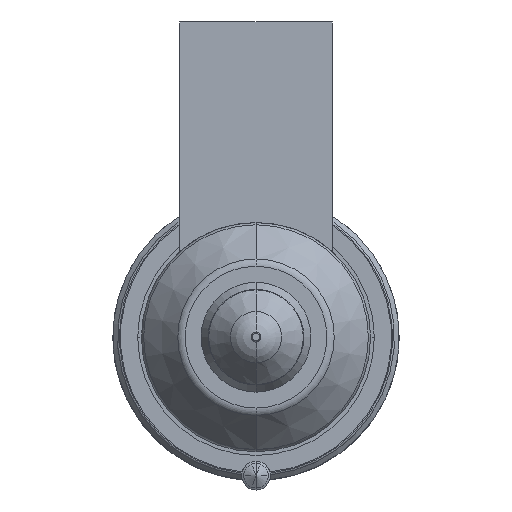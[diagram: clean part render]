
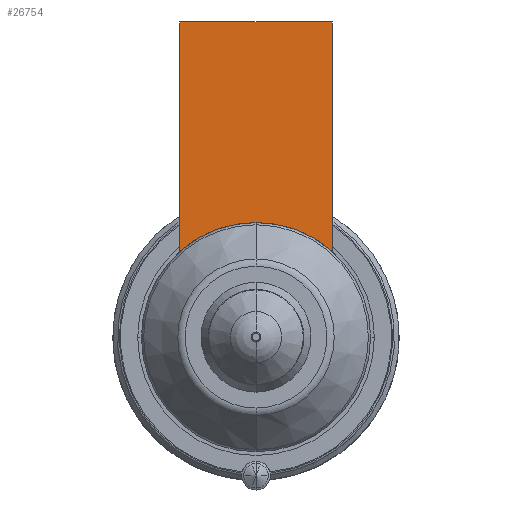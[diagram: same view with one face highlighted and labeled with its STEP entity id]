
A CAD part, front view. The second image highlights one B-rep face of the part: STEP entity #26754.
In plain terms, the highlighted planar face has unit normal (0, -1, 0).
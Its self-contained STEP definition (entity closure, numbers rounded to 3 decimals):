
#25834=DIRECTION('',(0.,0.,-1.));
#25835=VECTOR('',#25834,24.056);
#25836=CARTESIAN_POINT('',(-8.,-56.,33.));
#25837=LINE('',#25836,#25835);
#25874=DIRECTION('',(1.,0.,0.));
#25875=VECTOR('',#25874,16.);
#25876=CARTESIAN_POINT('',(-8.,-56.,33.));
#25877=LINE('',#25876,#25875);
#25881=CARTESIAN_POINT('',(0.,-56.,0.));
#25882=DIRECTION('',(0.,-1.,0.));
#25883=DIRECTION('',(0.667,0.,0.745));
#25884=AXIS2_PLACEMENT_3D('',#25881,#25882,#25883);
#25889=CARTESIAN_POINT('',(0.,-56.,0.));
#25890=DIRECTION('',(0.,-1.,0.));
#25891=DIRECTION('',(0.,0.,1.));
#25892=AXIS2_PLACEMENT_3D('',#25889,#25890,#25891);
#25925=DIRECTION('',(0.,0.,-1.));
#25926=VECTOR('',#25925,24.056);
#25927=CARTESIAN_POINT('',(8.,-56.,33.));
#25928=LINE('',#25927,#25926);
#26590=CARTESIAN_POINT('',(-8.,-56.,33.));
#26591=VERTEX_POINT('',#26590);
#26596=CARTESIAN_POINT('',(8.,-56.,33.));
#26597=VERTEX_POINT('',#26596);
#26600=CARTESIAN_POINT('',(-8.,-56.,8.944));
#26601=VERTEX_POINT('',#26600);
#26604=CARTESIAN_POINT('',(8.,-56.,8.944));
#26605=VERTEX_POINT('',#26604);
#26673=CARTESIAN_POINT('',(0.,-56.,12.));
#26674=VERTEX_POINT('',#26673);
#26739=CARTESIAN_POINT('',(-8.,-56.,33.));
#26740=DIRECTION('',(0.,-1.,0.));
#26741=DIRECTION('',(0.,0.,-1.));
#26742=AXIS2_PLACEMENT_3D('',#26739,#26740,#26741);
#26743=PLANE('',#26742);
#26744=ORIENTED_EDGE('',*,*,#26687,.F.);
#26746=ORIENTED_EDGE('',*,*,#26745,.T.);
#26748=ORIENTED_EDGE('',*,*,#26747,.T.);
#26750=ORIENTED_EDGE('',*,*,#26749,.T.);
#26751=ORIENTED_EDGE('',*,*,#26719,.T.);
#26752=EDGE_LOOP('',(#26744,#26746,#26748,#26750,#26751));
#26753=FACE_OUTER_BOUND('',#26752,.F.);
#26754=ADVANCED_FACE('',(#26753),#26743,.T.);
#25885=CIRCLE('',#25884,12.);
#25893=CIRCLE('',#25892,12.);
#26687=EDGE_CURVE('',#26591,#26601,#25837,.T.);
#26719=EDGE_CURVE('',#26674,#26601,#25893,.T.);
#26745=EDGE_CURVE('',#26591,#26597,#25877,.T.);
#26747=EDGE_CURVE('',#26597,#26605,#25928,.T.);
#26749=EDGE_CURVE('',#26605,#26674,#25885,.T.);
